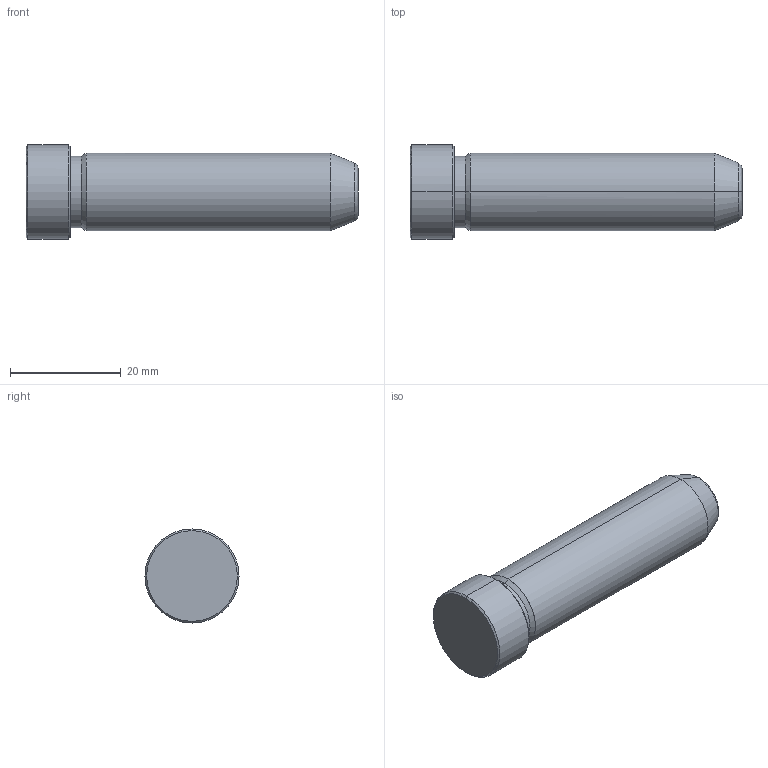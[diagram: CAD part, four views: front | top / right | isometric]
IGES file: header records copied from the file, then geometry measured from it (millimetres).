
Start section: START RECORD GO HERE.
Global section: file name: 549-14X60.igs; native system: DASSAULT SYSTEMES CATIA V5 R20 - www.3ds.com; preprocessor: CATIA Version 5 Release 20 ; author: Utente; organization: NB04-ASUS; date: 20211211.102820; units: millimetre
Bounding box: 60 x 17 x 17 mm (x, y, z)
Surface area: 3070.3 mm2 (no closed solid volume)
Topology: 0 solids, 0 shells, 19 faces, 112 edges, 112 vertices
Faces by surface type: revolution 16, plane 3
